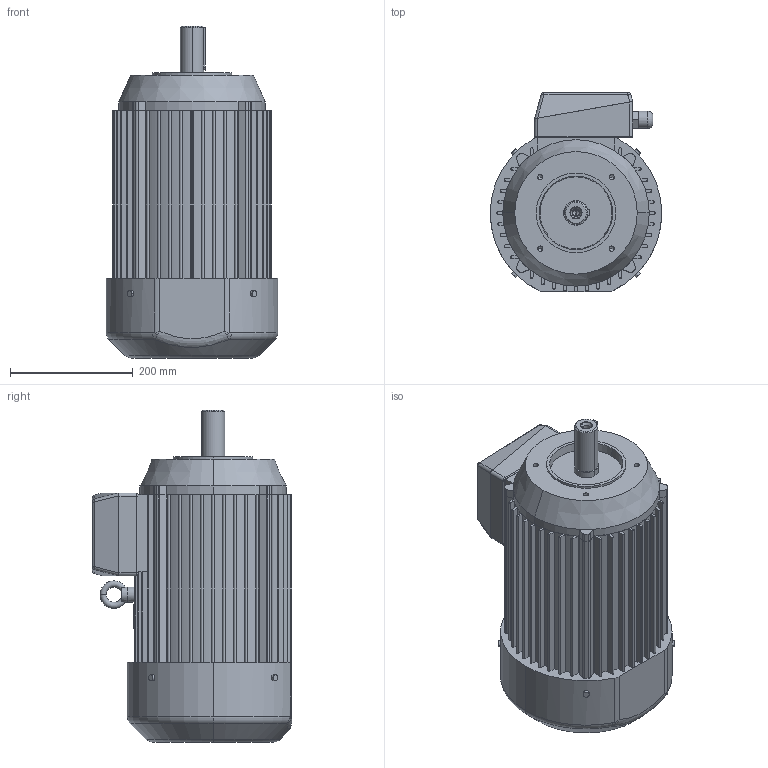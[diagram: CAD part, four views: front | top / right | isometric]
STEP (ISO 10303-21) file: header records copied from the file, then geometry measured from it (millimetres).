
FILE_DESCRIPTION (( 'STEP AP203' ), '1' );
FILE_NAME ('3SIEK132S;M-B14-C2.STEP', '2015-01-09T07:20:40', ( 'Indukta' ), ( 'Celma Indukta S.A.' ), 'SwSTEP 2.0', 'SolidWorks 2003064', '' );
FILE_SCHEMA (( 'CONFIG_CONTROL_DESIGN' ));
Length unit declared in the file: millimetre
Products named in the file (1): 3SIEK132S;M-B14-C2
Bounding box: 280 x 325 x 542 mm (x, y, z)
Volume: 24428799.6 mm3; surface area: 948887.8 mm2
Topology: 14 solids, 14 shells, 395 faces, 1027 edges, 652 vertices
Faces by surface type: cylinder 178, plane 168, cone 24, torus 16, bspline 5, sphere 4
Entity records: 15789 total; most frequent: CARTESIAN_POINT 5908, DIRECTION 2136, ORIENTED_EDGE 2022, EDGE_CURVE 1011, AXIS2_PLACEMENT_3D 779, VERTEX_POINT 652, LINE 578, VECTOR 578
